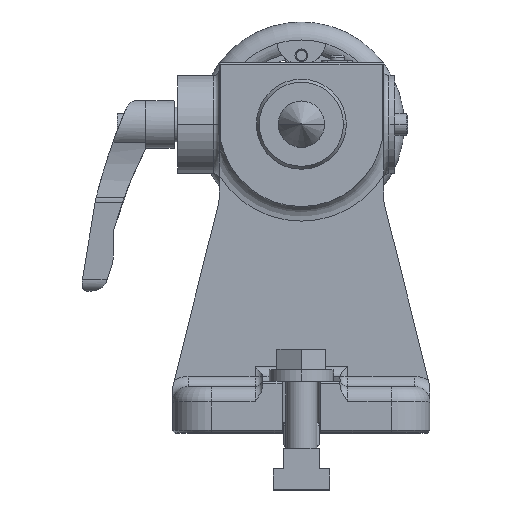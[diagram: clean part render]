
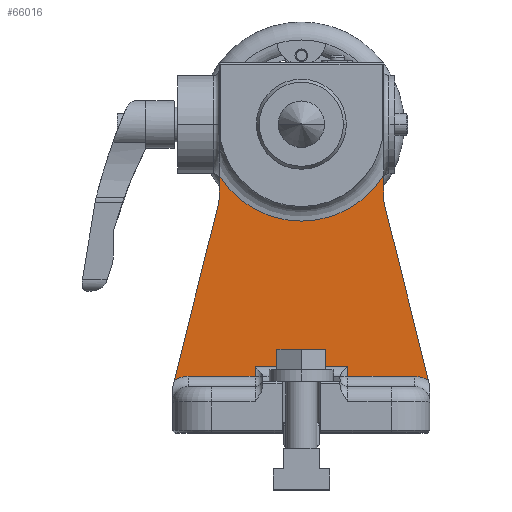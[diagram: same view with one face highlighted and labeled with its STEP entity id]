
A CAD part, top view. The second image highlights one B-rep face of the part: STEP entity #66016.
In plain terms, the highlighted planar face has unit normal (0, 0, 1) as drawn and (-1, 0, 0) by its records, which use the part's own axes.
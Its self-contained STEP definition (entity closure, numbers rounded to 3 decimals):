
#893 = CARTESIAN_POINT ( 'NONE',  ( 25., 159., 32. ) ) ;
#3499 = CARTESIAN_POINT ( 'NONE',  ( 25., 150.706, -16.824 ) ) ;
#3512 = CARTESIAN_POINT ( 'NONE',  ( 25., 88.806, 32.299 ) ) ;
#4365 = VERTEX_POINT ( 'NONE', #59752 ) ;
#4432 = ORIENTED_EDGE ( 'NONE', *, *, #14549, .F. ) ;
#4454 = DIRECTION ( 'NONE',  ( 1., 0., 0. ) ) ;
#6436 = DIRECTION ( 'NONE',  ( 0., 0., -1. ) ) ;
#6699 = CIRCLE ( 'NONE', #27023, 10. ) ;
#7326 = LINE ( 'NONE', #16719, #17438 ) ;
#7677 = DIRECTION ( 'NONE',  ( 0., 1., 0. ) ) ;
#8102 = VERTEX_POINT ( 'NONE', #19627 ) ;
#8609 = LINE ( 'NONE', #18972, #11155 ) ;
#8879 = VERTEX_POINT ( 'NONE', #3512 ) ;
#9158 = DIRECTION ( 'NONE',  ( 0., 0., -1. ) ) ;
#9377 = ORIENTED_EDGE ( 'NONE', *, *, #14223, .F. ) ;
#9478 = CARTESIAN_POINT ( 'NONE',  ( 25., 120., 0. ) ) ;
#9576 = EDGE_CURVE ( 'NONE', #41949, #51202, #24422, .T. ) ;
#9846 = LINE ( 'NONE', #30276, #39115 ) ;
#10006 = FACE_OUTER_BOUND ( 'NONE', #34093, .T. ) ;
#10217 = ORIENTED_EDGE ( 'NONE', *, *, #23860, .T. ) ;
#10292 = DIRECTION ( 'NONE',  ( 0., -1., 0. ) ) ;
#10452 = DIRECTION ( 'NONE',  ( 1., 0., 0. ) ) ;
#10987 = AXIS2_PLACEMENT_3D ( 'NONE', #45950, #10452, #6436 ) ;
#11155 = VECTOR ( 'NONE', #18341, 1000. ) ;
#12205 = ORIENTED_EDGE ( 'NONE', *, *, #19798, .T. ) ;
#12206 = DIRECTION ( 'NONE',  ( 1., 0., 0. ) ) ;
#13447 = VECTOR ( 'NONE', #41818, 1000. ) ;
#13449 = CARTESIAN_POINT ( 'NONE',  ( 25., 22., -44. ) ) ;
#13646 = EDGE_CURVE ( 'NONE', #8102, #62319, #33485, .T. ) ;
#13958 = VERTEX_POINT ( 'NONE', #13449 ) ;
#14223 = EDGE_CURVE ( 'NONE', #8102, #24034, #7326, .T. ) ;
#14442 = DIRECTION ( 'NONE',  ( 0., 0., -1. ) ) ;
#14549 = EDGE_CURVE ( 'NONE', #48130, #53901, #31060, .T. ) ;
#14657 = VECTOR ( 'NONE', #44229, 1000. ) ;
#14722 = AXIS2_PLACEMENT_3D ( 'NONE', #35799, #61937, #56910 ) ;
#15384 = CARTESIAN_POINT ( 'NONE',  ( 25., 100.15, -32. ) ) ;
#15453 = CARTESIAN_POINT ( 'NONE',  ( 25., 26., -24.016 ) ) ;
#15855 = CARTESIAN_POINT ( 'NONE',  ( 25., 100.15, 32. ) ) ;
#16120 = VERTEX_POINT ( 'NONE', #29533 ) ;
#16456 = VECTOR ( 'NONE', #63900, 1000. ) ;
#16719 = CARTESIAN_POINT ( 'NONE',  ( 25., 159., -32. ) ) ;
#17096 = CIRCLE ( 'NONE', #44878, 10. ) ;
#17438 = VECTOR ( 'NONE', #7677, 1000. ) ;
#18341 = DIRECTION ( 'NONE',  ( 0., -1., 0. ) ) ;
#18754 = CARTESIAN_POINT ( 'NONE',  ( 25., 159., -18. ) ) ;
#18972 = CARTESIAN_POINT ( 'NONE',  ( 25., 159., 18. ) ) ;
#19429 = DIRECTION ( 'NONE',  ( 1., 0., 0. ) ) ;
#19627 = CARTESIAN_POINT ( 'NONE',  ( 25., 91.231, -32. ) ) ;
#19798 = EDGE_CURVE ( 'NONE', #48130, #24034, #64371, .T. ) ;
#21123 = CARTESIAN_POINT ( 'NONE',  ( 25., 26., -18. ) ) ;
#23860 = EDGE_CURVE ( 'NONE', #8879, #53901, #37360, .T. ) ;
#24034 = VERTEX_POINT ( 'NONE', #15384 ) ;
#24422 = LINE ( 'NONE', #18754, #14657 ) ;
#25898 = VERTEX_POINT ( 'NONE', #53062 ) ;
#27023 = AXIS2_PLACEMENT_3D ( 'NONE', #65078, #44943, #14442 ) ;
#28745 = ORIENTED_EDGE ( 'NONE', *, *, #13646, .T. ) ;
#29533 = CARTESIAN_POINT ( 'NONE',  ( 25., 22., 44. ) ) ;
#29866 = ORIENTED_EDGE ( 'NONE', *, *, #50009, .T. ) ;
#30276 = CARTESIAN_POINT ( 'NONE',  ( 25., 22., -50. ) ) ;
#30325 = VECTOR ( 'NONE', #10292, 1000. ) ;
#31060 = LINE ( 'NONE', #893, #30325 ) ;
#31988 = ORIENTED_EDGE ( 'NONE', *, *, #56544, .T. ) ;
#32083 = CARTESIAN_POINT ( 'NONE',  ( 25., 22., -50. ) ) ;
#33485 = CIRCLE ( 'NONE', #10987, 10. ) ;
#34093 = EDGE_LOOP ( 'NONE', ( #55131, #38433, #31988, #56414, #29866, #50526, #50862, #10217, #4432, #12205, #9377, #28745, #46064, #46711 ) ) ;
#35799 = CARTESIAN_POINT ( 'NONE',  ( 25., 159., -50. ) ) ;
#35906 = DIRECTION ( 'NONE',  ( 0., 0., 1. ) ) ;
#36457 = PLANE ( 'NONE',  #14722 ) ;
#36802 = LINE ( 'NONE', #37117, #13447 ) ;
#37117 = CARTESIAN_POINT ( 'NONE',  ( 25., 174.235, 10.941 ) ) ;
#37360 = CIRCLE ( 'NONE', #38426, 10. ) ;
#38426 = AXIS2_PLACEMENT_3D ( 'NONE', #60004, #19429, #49271 ) ;
#38433 = ORIENTED_EDGE ( 'NONE', *, *, #9576, .T. ) ;
#38656 = AXIS2_PLACEMENT_3D ( 'NONE', #9478, #4454, #9158 ) ;
#38674 = LINE ( 'NONE', #3499, #65778 ) ;
#39115 = VECTOR ( 'NONE', #45657, 1000. ) ;
#41250 = EDGE_CURVE ( 'NONE', #25898, #4365, #8609, .T. ) ;
#41818 = DIRECTION ( 'NONE',  ( 0., -0.97, 0.243 ) ) ;
#41949 = VERTEX_POINT ( 'NONE', #47987 ) ;
#42669 = CARTESIAN_POINT ( 'NONE',  ( 25., 12., -44. ) ) ;
#42787 = LINE ( 'NONE', #32083, #16456 ) ;
#42827 = VECTOR ( 'NONE', #35906, 1000. ) ;
#43360 = DIRECTION ( 'NONE',  ( 0., 0.97, 0.243 ) ) ;
#44229 = DIRECTION ( 'NONE',  ( 0., 1., 0. ) ) ;
#44878 = AXIS2_PLACEMENT_3D ( 'NONE', #42669, #12206, #52384 ) ;
#44943 = DIRECTION ( 'NONE',  ( 1., 0., 0. ) ) ;
#45577 = CARTESIAN_POINT ( 'NONE',  ( 25., 91.231, 32. ) ) ;
#45657 = DIRECTION ( 'NONE',  ( 0., 0., 1. ) ) ;
#45950 = CARTESIAN_POINT ( 'NONE',  ( 25., 91.231, -42. ) ) ;
#46064 = ORIENTED_EDGE ( 'NONE', *, *, #58719, .F. ) ;
#46711 = ORIENTED_EDGE ( 'NONE', *, *, #56177, .T. ) ;
#46786 = EDGE_CURVE ( 'NONE', #16120, #52232, #6699, .T. ) ;
#47987 = CARTESIAN_POINT ( 'NONE',  ( 25., 22., -18. ) ) ;
#48130 = VERTEX_POINT ( 'NONE', #15855 ) ;
#49271 = DIRECTION ( 'NONE',  ( 0., 0., -1. ) ) ;
#49637 = CARTESIAN_POINT ( 'NONE',  ( 25., 20.42, -49.395 ) ) ;
#50009 = EDGE_CURVE ( 'NONE', #4365, #16120, #9846, .T. ) ;
#50044 = CARTESIAN_POINT ( 'NONE',  ( 25., 20.42, 49.395 ) ) ;
#50526 = ORIENTED_EDGE ( 'NONE', *, *, #46786, .T. ) ;
#50862 = ORIENTED_EDGE ( 'NONE', *, *, #61649, .F. ) ;
#51202 = VERTEX_POINT ( 'NONE', #21123 ) ;
#52232 = VERTEX_POINT ( 'NONE', #50044 ) ;
#52384 = DIRECTION ( 'NONE',  ( 0., 0., -1. ) ) ;
#53062 = CARTESIAN_POINT ( 'NONE',  ( 25., 26., 18. ) ) ;
#53901 = VERTEX_POINT ( 'NONE', #45577 ) ;
#55131 = ORIENTED_EDGE ( 'NONE', *, *, #58267, .T. ) ;
#56177 = EDGE_CURVE ( 'NONE', #65501, #13958, #17096, .T. ) ;
#56414 = ORIENTED_EDGE ( 'NONE', *, *, #41250, .T. ) ;
#56544 = EDGE_CURVE ( 'NONE', #51202, #25898, #61401, .T. ) ;
#56910 = DIRECTION ( 'NONE',  ( 0., 0., -1. ) ) ;
#58267 = EDGE_CURVE ( 'NONE', #13958, #41949, #42787, .T. ) ;
#58719 = EDGE_CURVE ( 'NONE', #65501, #62319, #38674, .T. ) ;
#59752 = CARTESIAN_POINT ( 'NONE',  ( 25., 22., 18. ) ) ;
#60004 = CARTESIAN_POINT ( 'NONE',  ( 25., 91.231, 42. ) ) ;
#61401 = LINE ( 'NONE', #15453, #42827 ) ;
#61649 = EDGE_CURVE ( 'NONE', #8879, #52232, #36802, .T. ) ;
#61937 = DIRECTION ( 'NONE',  ( 1., 0., 0. ) ) ;
#62038 = CARTESIAN_POINT ( 'NONE',  ( 25., 88.806, -32.299 ) ) ;
#62319 = VERTEX_POINT ( 'NONE', #62038 ) ;
#63900 = DIRECTION ( 'NONE',  ( 0., 0., 1. ) ) ;
#64371 = CIRCLE ( 'NONE', #38656, 37.657 ) ;
#65078 = CARTESIAN_POINT ( 'NONE',  ( 25., 12., 44. ) ) ;
#65501 = VERTEX_POINT ( 'NONE', #49637 ) ;
#65778 = VECTOR ( 'NONE', #43360, 1000. ) ;
#66016 = ADVANCED_FACE ( 'NONE', ( #10006 ), #36457, .F. ) ;
